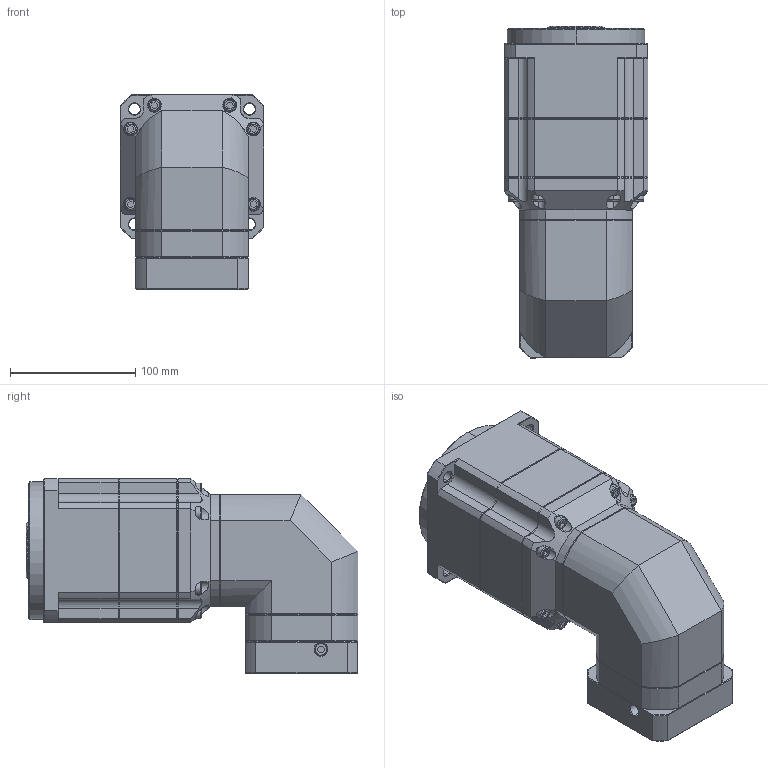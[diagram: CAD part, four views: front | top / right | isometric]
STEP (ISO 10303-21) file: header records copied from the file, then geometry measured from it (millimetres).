
FILE_DESCRIPTION (( 'STEP AP214' ), '1' );
FILE_NAME ('ZPBR115-K32-L3-P1-14-73-69.6X69.6-M6.step', '2024-06-29T08:16:05', ( 'Windows 蚚誧' ), ( 'Organization' ), 'SwSTEP 2.0', 'SolidWorks 2016', '' );
FILE_SCHEMA (( 'AUTOMOTIVE_DESIGN' ));
Length unit declared in the file: millimetre
Products named in the file (1): ZPBR115-K32-L3-P1-14-73-69.6X69.6-M6
Bounding box: 115 x 265 x 155.5 mm (x, y, z)
Surface area: 165154.9 mm2 (no closed solid volume)
Topology: 0 solids, 2 shells, 1829 faces, 4851 edges, 3124 vertices
Faces by surface type: plane 1064, bspline 390, cylinder 201, cone 174
Entity records: 88444 total; most frequent: CARTESIAN_POINT 38916, ORIENTED_EDGE 9700, DIRECTION 7254, EDGE_CURVE 4851, VECTOR 3260, LINE 3260, VERTEX_POINT 3124, AXIS2_PLACEMENT_3D 1997
